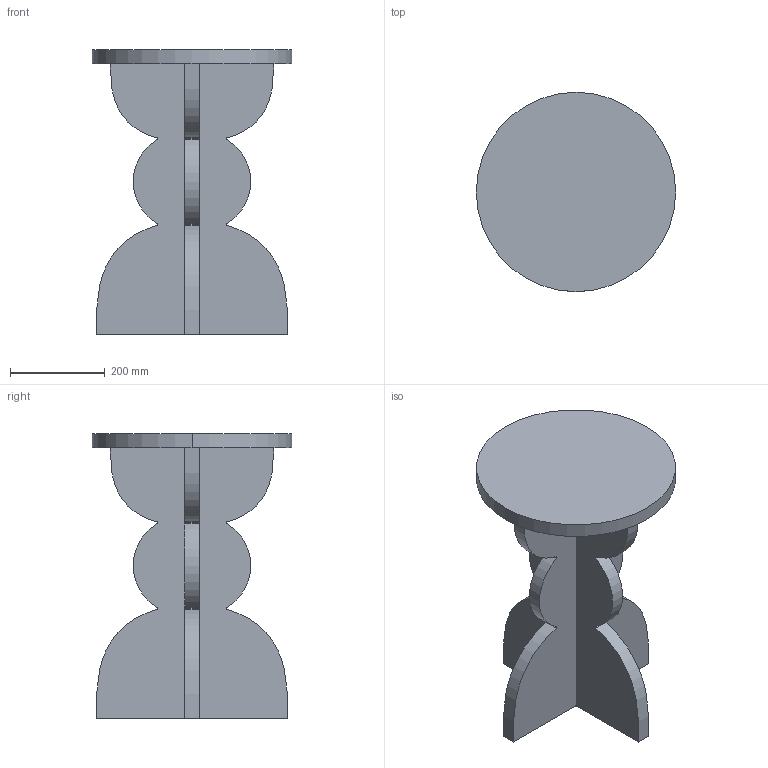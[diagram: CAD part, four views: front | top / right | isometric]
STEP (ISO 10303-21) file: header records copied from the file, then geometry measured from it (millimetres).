
FILE_DESCRIPTION (( 'STEP AP214' ), '1' );
FILE_NAME ('CHESS Table - 42 High.STEP', '2025-03-25T10:29:58', ( '' ), ( '' ), 'SwSTEP 2.0', 'SolidWorks 2020', '' );
FILE_SCHEMA (( 'AUTOMOTIVE_DESIGN' ));
Length unit declared in the file: millimetre
Products named in the file (4): SW-chess_high base_high 牌er; SW-chess_high base_high under; SW-chess_top_42; CHESS Table - 42 High
Assembly tree (3 placements, depth 2):
  CHESS Table - 42 High
    SW-chess_top_42
    SW-chess_high base_high under
    SW-chess_high base_high 牌er
Bounding box: 420 x 420 x 600 mm (x, y, z)
Volume: 14247638.1 mm3; surface area: 1119869 mm2
Topology: 3 solids, 3 shells, 38 faces, 96 edges, 64 vertices
Faces by surface type: cylinder 20, plane 10, bspline 8
Entity records: 1394 total; most frequent: CARTESIAN_POINT 340, DIRECTION 192, ORIENTED_EDGE 192, EDGE_CURVE 96, AXIS2_PLACEMENT_3D 76, VERTEX_POINT 64, CIRCLE 40, LINE 40
